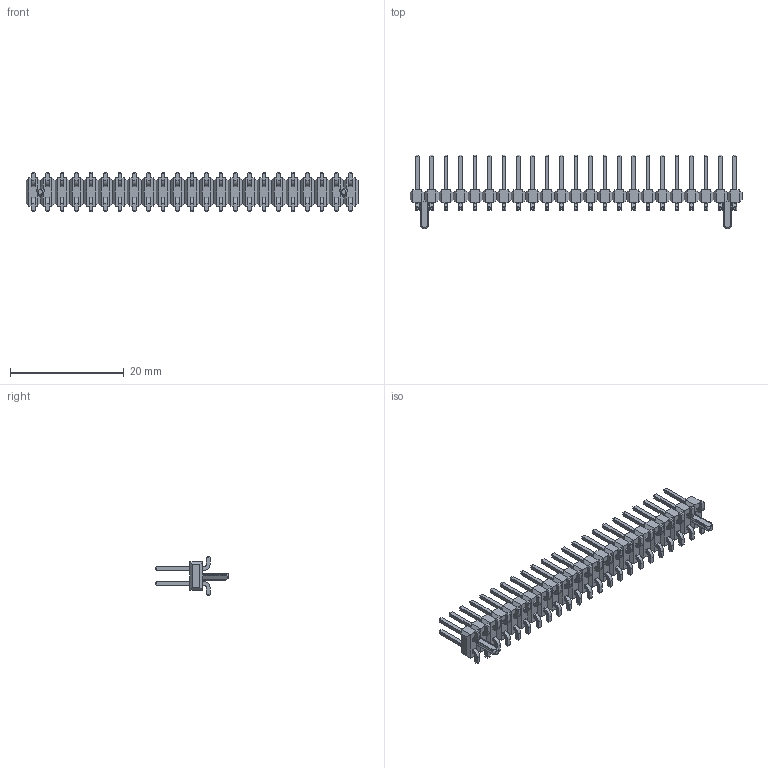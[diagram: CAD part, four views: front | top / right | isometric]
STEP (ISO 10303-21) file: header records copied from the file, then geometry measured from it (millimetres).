
FILE_DESCRIPTION((''),'2;1');
FILE_NAME('713086446','2018-12-12T',('gga'),(''),'PRO/ENGINEER BY PARAMETRIC TECHNOLOGY CORPORATION, 2016010','PRO/ENGINEER BY PARAMETRIC TECHNOLOGY CORPORATION, 2016010','');
FILE_SCHEMA(('CONFIG_CONTROL_DESIGN'));
Length unit declared in the file: millimetre
Products named in the file (1): 713086446
Bounding box: 58.42 x 12.96 x 6.99 mm (x, y, z)
Volume: 773 mm3; surface area: 2000.3 mm2
Topology: 1 solids, 1 shells, 1336 faces, 3280 edges, 2040 vertices
Faces by surface type: plane 1222, cylinder 110, cone 4
Entity records: 37690 total; most frequent: CARTESIAN_POINT 6576, ORIENTED_EDGE 6164, DIRECTION 6142, EDGE_CURVE 3082, VECTOR 3028, LINE 3028, VERTEX_POINT 1840, AXIS2_PLACEMENT_3D 1557
